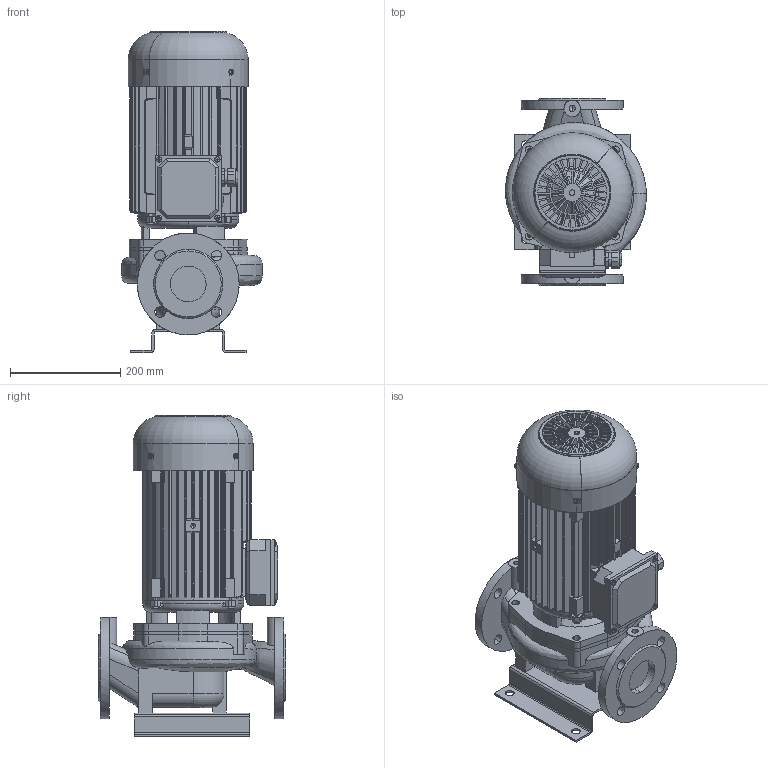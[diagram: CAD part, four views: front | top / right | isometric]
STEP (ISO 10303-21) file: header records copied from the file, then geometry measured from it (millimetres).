
FILE_DESCRIPTION(('STEP AP214'),'1');
FILE_NAME('export.stp','2018-05-28T11:32:59',(' '),(' '),'Spatial InterOp 3D',' ',' ');
FILE_SCHEMA(('AUTOMOTIVE_DESIGN { 1 0 10303 214 1 1 1 1 }'));
Length unit declared in the file: millimetre
Products named in the file (27): W_ALP10652400KP11; V_TLL65AB80A1102; V_PPL65AB; V_JALKA35973; 440017; 440016; V_MKP112F19; 440015___; 440018; 6205_D25_D52_B15_Rolling_bearing; 6305_D25_D62_B17_Rolling_bearing; DIN_471-25_Circlip_DIN_471_-_25_; DIN_472-62_Circlip_DIN_472_-_62_; 440019; 440021; 480022; 480020; DIN_471-24X1.2_Circlip_DIN_471_-; 480021; 480023; DIN_EN_ISO_7045-M5X12_DIN_EN_ISO; DIN_EN_ISO_7045-M5X8_DIN_EN_ISO_; DIN_EN_24017_-_M6_30_DIN_EN_2401; DIN_EN_ISO_7045-M5X6_DIN_EN_ISO_; M25_Blind_Plug; M25_tiivisteholkk; LJ_6205
Assembly tree (45 placements, depth 4):
  W_ALP10652400KP11
    V_TLL65AB80A1102
    V_PPL65AB
    V_JALKA35973
    V_MKP112F19
      440017
        440016
      440015___
      440018
      6205_D25_D52_B15_Rolling_bearing
      6305_D25_D62_B17_Rolling_bearing
      DIN_471-25_Circlip_DIN_471_-_25_
      DIN_472-62_Circlip_DIN_472_-_62_
      440019
      440021
      480022
      480020
      DIN_471-24X1.2_Circlip_DIN_471_-
      480021
      480023
      DIN_EN_ISO_7045-M5X12_DIN_EN_ISO  x10
      DIN_EN_ISO_7045-M5X8_DIN_EN_ISO_
      DIN_EN_24017_-_M6_30_DIN_EN_2401  x8
      DIN_EN_ISO_7045-M5X6_DIN_EN_ISO_  x4
      M25_Blind_Plug
      M25_tiivisteholkk
      LJ_6205
Bounding box: 256.34 x 340 x 584.2 mm (x, y, z)
Volume: 7435427.2 mm3; surface area: 1653335.5 mm2
Topology: 43 solids, 43 shells, 2973 faces, 8336 edges, 5322 vertices
Faces by surface type: plane 1130, cylinder 1063, torus 323, cone 284, bspline 100, sphere 73
Entity records: 96032 total; most frequent: CARTESIAN_POINT 29704, ORIENTED_EDGE 13664, DIRECTION 12559, EDGE_CURVE 6832, AXIS2_PLACEMENT_3D 4917, VERTEX_POINT 4508, EDGE_LOOP 2746, LINE 2725
